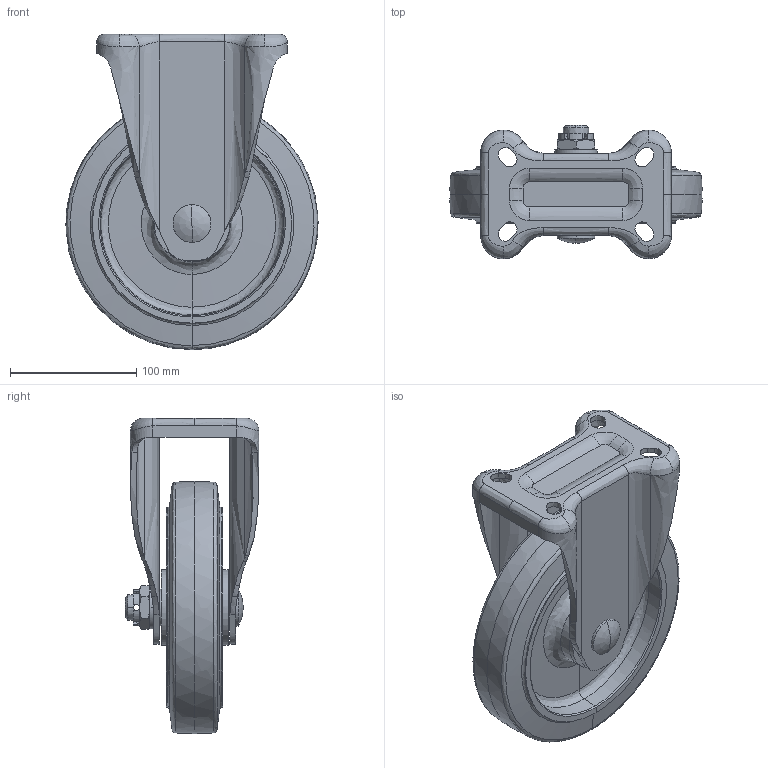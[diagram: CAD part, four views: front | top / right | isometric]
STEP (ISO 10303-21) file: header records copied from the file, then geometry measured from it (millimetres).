
FILE_DESCRIPTION (( 'STEP AP214' ), '1' );
FILE_NAME ('TR-200AWK-ALL.STEP', '2021-06-10T02:29:56', ( '' ), ( '' ), 'SwSTEP 2.0', 'SolidWorks 2010', '' );
FILE_SCHEMA (( 'AUTOMOTIVE_DESIGN' ));
Products named in the file (7): TR-200AWK-10; TR-200AWK-11; TR-200AWK-12; TR-200AWK-13; TR-200AWK-14; TR-200AWK-15; TR-200AWK-ALL
Assembly tree (6 placements, depth 2):
  TR-200AWK-ALL
    TR-200AWK-10
    TR-200AWK-11
    TR-200AWK-15
    TR-200AWK-12
    TR-200AWK-13
    TR-200AWK-14
Bounding box: 199.87 x 106.1 x 250 mm (x, y, z)
Volume: 1049296.4 mm3; surface area: 278315.5 mm2
Topology: 8 solids, 8 shells, 322 faces, 782 edges, 465 vertices
Faces by surface type: bspline 265, plane 57
Entity records: 82427 total; most frequent: CARTESIAN_POINT 76514, ORIENTED_EDGE 1560, EDGE_CURVE 780, B_SPLINE_CURVE_WITH_KNOTS 572, VERTEX_POINT 465, DIRECTION 340, EDGE_LOOP 339, FACE_OUTER_BOUND 322
